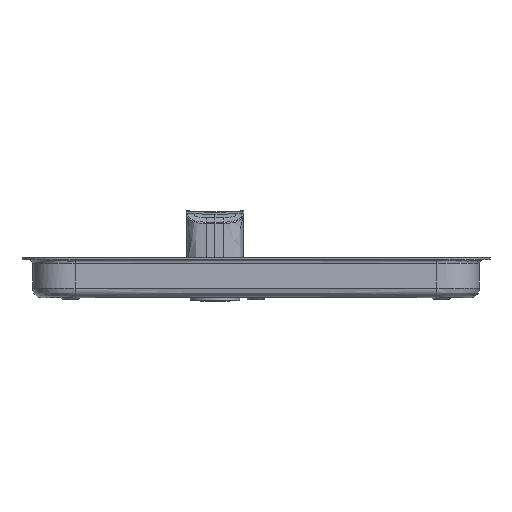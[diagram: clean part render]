
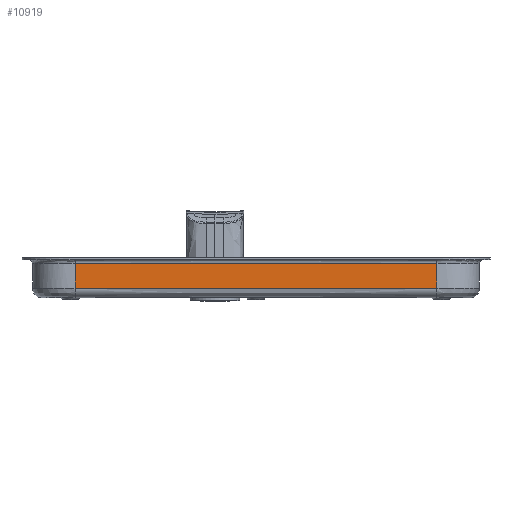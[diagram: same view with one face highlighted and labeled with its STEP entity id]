
A CAD part, left-side view. The second image highlights one B-rep face of the part: STEP entity #10919.
In plain terms, the highlighted free-form (B-spline) face has degree [2, 1] with [3, 2] control points.
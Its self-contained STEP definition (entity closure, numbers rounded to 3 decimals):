
#134=B_SPLINE_SURFACE_WITH_KNOTS('',2,1,((#18703,#18704),(#18705,#18706),
(#18707,#18708)),.UNSPECIFIED.,.F.,.F.,.F.,(3,3),(2,2),(-1.,0.),(0.,2.4),
 .UNSPECIFIED.);
#501=B_SPLINE_CURVE_WITH_KNOTS('',3,(#17681,#17682,#17683,#17684),
 .UNSPECIFIED.,.F.,.F.,(4,4),(0.,18.943),.UNSPECIFIED.);
#525=B_SPLINE_CURVE_WITH_KNOTS('',2,(#18711,#18712,#18713),
 .UNSPECIFIED.,.F.,.F.,(3,3),(0.,18.943),.UNSPECIFIED.);
#1201=LINE('',#18714,#2084);
#1202=LINE('',#18715,#2085);
#2084=VECTOR('',#12646,10.);
#2085=VECTOR('',#12647,10.);
#2977=FACE_OUTER_BOUND('',#3640,.T.);
#3640=EDGE_LOOP('',(#7897,#7898,#7899,#7900));
#4553=VERTEX_POINT('',#17643);
#4554=VERTEX_POINT('',#17680);
#4572=VERTEX_POINT('',#18709);
#4573=VERTEX_POINT('',#18710);
#5743=EDGE_CURVE('',#4554,#4553,#501,.T.);
#5784=EDGE_CURVE('',#4572,#4573,#525,.T.);
#5785=EDGE_CURVE('',#4573,#4554,#1201,.T.);
#5786=EDGE_CURVE('',#4553,#4572,#1202,.T.);
#7897=ORIENTED_EDGE('',*,*,#5784,.T.);
#7898=ORIENTED_EDGE('',*,*,#5785,.T.);
#7899=ORIENTED_EDGE('',*,*,#5743,.T.);
#7900=ORIENTED_EDGE('',*,*,#5786,.T.);
#10919=ADVANCED_FACE('',(#2977),#134,.T.);
#12646=DIRECTION('',(0.,0.,1.));
#12647=DIRECTION('',(0.,0.,-1.));
#17643=CARTESIAN_POINT('',(-107.579,96.985,7.985));
#17680=CARTESIAN_POINT('',(-107.579,-92.447,7.985));
#17681=CARTESIAN_POINT('Ctrl Pts',(-107.579,-92.447,7.985));
#17682=CARTESIAN_POINT('Ctrl Pts',(-107.579,-29.303,
7.985));
#17683=CARTESIAN_POINT('Ctrl Pts',(-107.579,33.841,7.985));
#17684=CARTESIAN_POINT('Ctrl Pts',(-107.579,96.985,7.985));
#18703=CARTESIAN_POINT('Ctrl Pts',(-107.579,-92.447,9.985));
#18704=CARTESIAN_POINT('Ctrl Pts',(-107.579,-92.447,-14.015));
#18705=CARTESIAN_POINT('Ctrl Pts',(-107.579,2.269,9.985));
#18706=CARTESIAN_POINT('Ctrl Pts',(-107.579,2.269,-14.015));
#18707=CARTESIAN_POINT('Ctrl Pts',(-107.579,96.985,9.985));
#18708=CARTESIAN_POINT('Ctrl Pts',(-107.579,96.985,-14.015));
#18709=CARTESIAN_POINT('',(-107.579,96.985,-5.015));
#18710=CARTESIAN_POINT('',(-107.579,-92.447,-5.015));
#18711=CARTESIAN_POINT('Ctrl Pts',(-107.579,96.985,-5.015));
#18712=CARTESIAN_POINT('Ctrl Pts',(-107.579,2.269,-5.015));
#18713=CARTESIAN_POINT('Ctrl Pts',(-107.579,-92.447,-5.015));
#18714=CARTESIAN_POINT('',(-107.579,-92.447,-5.015));
#18715=CARTESIAN_POINT('',(-107.579,96.985,7.985));
